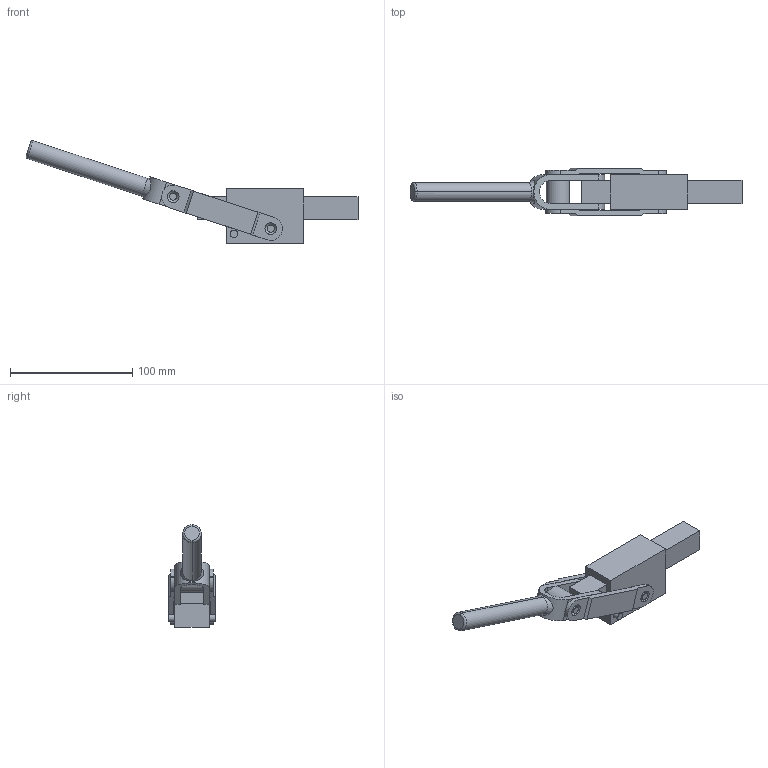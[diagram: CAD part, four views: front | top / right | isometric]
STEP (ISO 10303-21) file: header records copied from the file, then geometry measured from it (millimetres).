
FILE_DESCRIPTION( ( '' ), '1' );
FILE_NAME( 'C:\Documents and Settings\Richard Grenzke\My Documents\Wolverine Company Data\WOLVERINE CD 5_17_05\SOLIDS STEP\straight_line\c150.stp', ' ', ( '' ), ( '' ), 'ACIS Interop R16', 'Kubotek KeyCreator V5.5.1 (0454)', ' ' );
FILE_SCHEMA( ( 'CONFIG_CONTROL_DESIGN' ) );
Length unit declared in the file: inch
Products named in the file (12): 1; 2; 3; 4; 5; 6; 7; 8; 9; 10; 11; 12
Bounding box: 271.92 x 39.12 x 83.86 mm (x, y, z)
Volume: 150958.1 mm3; surface area: 52877.6 mm2
Topology: 11 solids, 11 shells, 134 faces, 358 edges, 247 vertices
Faces by surface type: plane 64, cylinder 54, cone 14, torus 2
Entity records: 4926 total; most frequent: CARTESIAN_POINT 819, DIRECTION 811, ORIENTED_EDGE 716, EDGE_CURVE 358, AXIS2_PLACEMENT_3D 311, VERTEX_POINT 247, LINE 189, VECTOR 189
